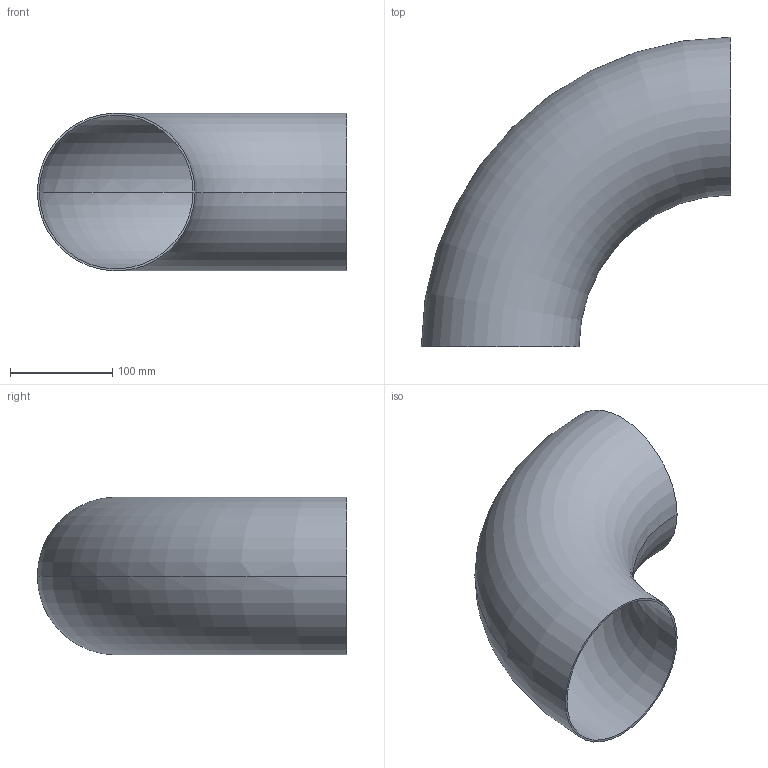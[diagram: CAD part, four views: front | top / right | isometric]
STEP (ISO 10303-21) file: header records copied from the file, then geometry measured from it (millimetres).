
FILE_DESCRIPTION (( 'STEP AP203' ), '1' );
FILE_NAME ('OT212-150-154x2_OSTP.step', '2020-12-16T02:51:57', ( '' ), ( '' ), 'SwSTEP 2.0', 'SolidWorks 2014', '' );
FILE_SCHEMA (( 'CONFIG_CONTROL_DESIGN' ));
Length unit declared in the file: millimetre
Products named in the file (1): OT212-150-154x2_OSTP
Bounding box: 302 x 302 x 154 mm (x, y, z)
Volume: 337540.5 mm3; surface area: 339450.6 mm2
Topology: 1 solids, 1 shells, 6 faces, 12 edges, 8 vertices
Faces by surface type: torus 4, plane 2
Entity records: 249 total; most frequent: DIRECTION 38, CARTESIAN_POINT 27, ORIENTED_EDGE 24, AXIS2_PLACEMENT_3D 19, CIRCLE 12, EDGE_CURVE 12, PERSON_AND_ORGANIZATION 8, EDGE_LOOP 8
